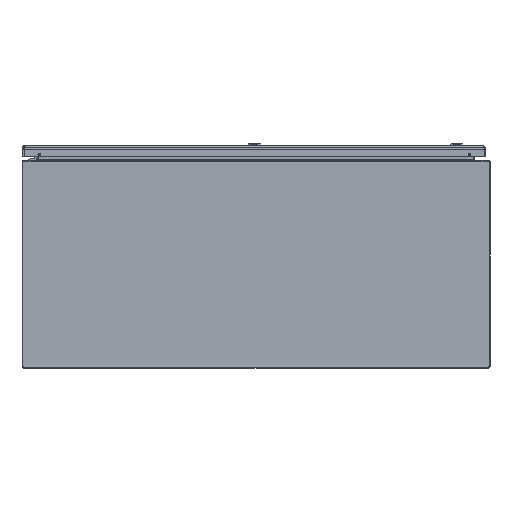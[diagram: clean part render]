
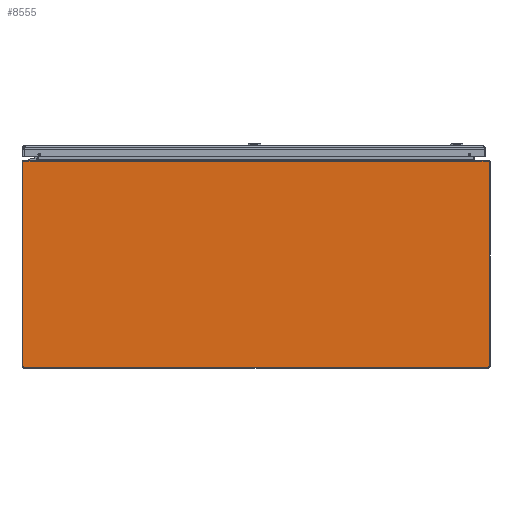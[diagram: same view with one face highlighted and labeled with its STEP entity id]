
A CAD part, front view. The second image highlights one B-rep face of the part: STEP entity #8555.
In plain terms, the highlighted planar face has unit normal (0, -1, 0).
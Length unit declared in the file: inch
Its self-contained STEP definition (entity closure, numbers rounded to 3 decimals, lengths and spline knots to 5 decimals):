
#7658=CARTESIAN_POINT('',(17.887,0.,7.897));
#7659=DIRECTION('',(0.,-1.,0.));
#7660=DIRECTION('',(1.,0.,0.));
#7661=AXIS2_PLACEMENT_3D('',#7658,#7659,#7660);
#7666=DIRECTION('',(0.,0.,-1.));
#7667=VECTOR('',#7666,15.764);
#7668=CARTESIAN_POINT('',(17.967,0.,7.897));
#7669=LINE('',#7668,#7667);
#7673=CARTESIAN_POINT('',(17.887,0.,-7.867));
#7674=DIRECTION('',(0.,-1.,0.));
#7675=DIRECTION('',(0.,0.,-1.));
#7676=AXIS2_PLACEMENT_3D('',#7673,#7674,#7675);
#7681=CARTESIAN_POINT('',(-17.887,0.,-7.867));
#7682=DIRECTION('',(0.,-1.,0.));
#7683=DIRECTION('',(-1.,0.,0.));
#7684=AXIS2_PLACEMENT_3D('',#7681,#7682,#7683);
#7689=DIRECTION('',(0.,0.,1.));
#7690=VECTOR('',#7689,15.764);
#7691=CARTESIAN_POINT('',(-17.967,0.,-7.867));
#7692=LINE('',#7691,#7690);
#7696=CARTESIAN_POINT('',(-17.887,0.,7.897));
#7697=DIRECTION('',(0.,-1.,0.));
#7698=DIRECTION('',(0.,0.,1.));
#7699=AXIS2_PLACEMENT_3D('',#7696,#7697,#7698);
#7711=DIRECTION('',(-1.,0.,0.));
#7712=VECTOR('',#7711,1.062);
#7713=CARTESIAN_POINT('',(17.887,0.,7.977));
#7714=LINE('',#7713,#7712);
#7739=DIRECTION('',(0.,0.,-1.));
#7740=VECTOR('',#7739,0.094);
#7741=CARTESIAN_POINT('',(16.825,0.,7.977));
#7742=LINE('',#7741,#7740);
#7882=DIRECTION('',(1.,0.,0.));
#7883=VECTOR('',#7882,33.65);
#7884=CARTESIAN_POINT('',(-16.825,0.,7.883));
#7885=LINE('',#7884,#7883);
#7926=DIRECTION('',(0.,0.,1.));
#7927=VECTOR('',#7926,0.094);
#7928=CARTESIAN_POINT('',(-16.825,0.,7.883));
#7929=LINE('',#7928,#7927);
#7961=DIRECTION('',(-1.,0.,0.));
#7962=VECTOR('',#7961,1.062);
#7963=CARTESIAN_POINT('',(-16.825,0.,7.977));
#7964=LINE('',#7963,#7962);
#8003=DIRECTION('',(1.,0.,0.));
#8004=VECTOR('',#8003,35.774);
#8005=CARTESIAN_POINT('',(-17.887,0.,-7.947));
#8006=LINE('',#8005,#8004);
#8408=CARTESIAN_POINT('',(-16.825,0.,7.883));
#8409=CARTESIAN_POINT('',(16.825,0.,7.883));
#8410=VERTEX_POINT('',#8408);
#8411=VERTEX_POINT('',#8409);
#8484=CARTESIAN_POINT('',(16.825,0.,7.977));
#8486=VERTEX_POINT('',#8484);
#8488=CARTESIAN_POINT('',(-16.825,0.,7.977));
#8490=VERTEX_POINT('',#8488);
#8492=CARTESIAN_POINT('',(17.967,0.,7.897));
#8493=CARTESIAN_POINT('',(17.887,0.,7.977));
#8494=VERTEX_POINT('',#8492);
#8495=VERTEX_POINT('',#8493);
#8500=CARTESIAN_POINT('',(17.887,0.,-7.947));
#8501=CARTESIAN_POINT('',(17.967,0.,-7.867));
#8502=VERTEX_POINT('',#8500);
#8503=VERTEX_POINT('',#8501);
#8508=CARTESIAN_POINT('',(-17.967,0.,-7.867));
#8509=CARTESIAN_POINT('',(-17.887,0.,-7.947));
#8510=VERTEX_POINT('',#8508);
#8511=VERTEX_POINT('',#8509);
#8516=CARTESIAN_POINT('',(-17.887,0.,7.977));
#8517=CARTESIAN_POINT('',(-17.967,0.,7.897));
#8518=VERTEX_POINT('',#8516);
#8519=VERTEX_POINT('',#8517);
#8524=CARTESIAN_POINT('',(0.,0.,0.));
#8525=DIRECTION('',(0.,-1.,0.));
#8526=DIRECTION('',(-1.,0.,0.));
#8527=AXIS2_PLACEMENT_3D('',#8524,#8525,#8526);
#8528=PLANE('',#8527);
#8530=ORIENTED_EDGE('',*,*,#8529,.F.);
#8532=ORIENTED_EDGE('',*,*,#8531,.T.);
#8534=ORIENTED_EDGE('',*,*,#8533,.F.);
#8536=ORIENTED_EDGE('',*,*,#8535,.F.);
#8538=ORIENTED_EDGE('',*,*,#8537,.F.);
#8540=ORIENTED_EDGE('',*,*,#8539,.T.);
#8542=ORIENTED_EDGE('',*,*,#8541,.F.);
#8544=ORIENTED_EDGE('',*,*,#8543,.F.);
#8546=ORIENTED_EDGE('',*,*,#8545,.F.);
#8548=ORIENTED_EDGE('',*,*,#8547,.T.);
#8550=ORIENTED_EDGE('',*,*,#8549,.F.);
#8552=ORIENTED_EDGE('',*,*,#8551,.F.);
#8553=EDGE_LOOP('',(#8530,#8532,#8534,#8536,#8538,#8540,#8542,#8544,#8546,#8548,
#8550,#8552));
#8554=FACE_OUTER_BOUND('',#8553,.F.);
#7662=CIRCLE('',#7661,0.08);
#7677=CIRCLE('',#7676,0.08);
#7685=CIRCLE('',#7684,0.08);
#7700=CIRCLE('',#7699,0.08);
#8529=EDGE_CURVE('',#8494,#8495,#7662,.T.);
#8531=EDGE_CURVE('',#8494,#8503,#7669,.T.);
#8533=EDGE_CURVE('',#8502,#8503,#7677,.T.);
#8535=EDGE_CURVE('',#8511,#8502,#8006,.T.);
#8537=EDGE_CURVE('',#8510,#8511,#7685,.T.);
#8539=EDGE_CURVE('',#8510,#8519,#7692,.T.);
#8541=EDGE_CURVE('',#8518,#8519,#7700,.T.);
#8543=EDGE_CURVE('',#8490,#8518,#7964,.T.);
#8545=EDGE_CURVE('',#8410,#8490,#7929,.T.);
#8547=EDGE_CURVE('',#8410,#8411,#7885,.T.);
#8549=EDGE_CURVE('',#8486,#8411,#7742,.T.);
#8551=EDGE_CURVE('',#8495,#8486,#7714,.T.);
#8555=ADVANCED_FACE('',(#8554),#8528,.T.);
